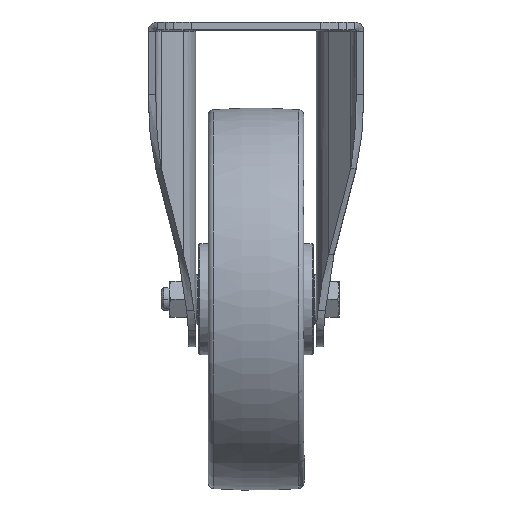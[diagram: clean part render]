
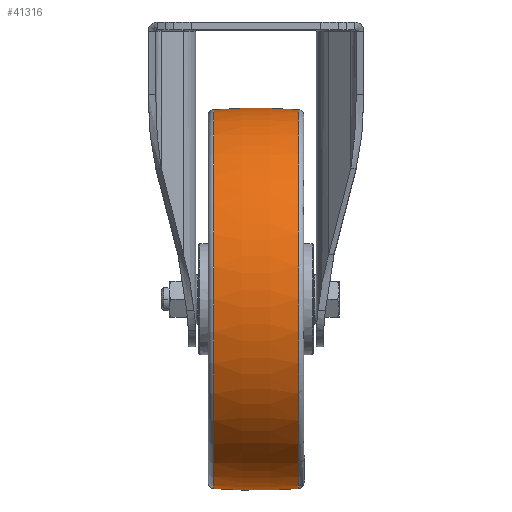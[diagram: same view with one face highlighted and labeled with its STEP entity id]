
A CAD part, top view. The second image highlights one B-rep face of the part: STEP entity #41316.
In plain terms, the highlighted toroidal (fillet/blend) face has major radius 200 mm and minor radius 300 mm.
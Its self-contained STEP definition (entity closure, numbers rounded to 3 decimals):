
#294 = ORIENTED_EDGE ( 'NONE', *, *, #62088, .T. ) ;
#674 = CARTESIAN_POINT ( 'NONE',  ( 22.222, 0., 0. ) ) ;
#892 = CARTESIAN_POINT ( 'NONE',  ( 0., 200., 0. ) ) ;
#1522 = FACE_OUTER_BOUND ( 'NONE', #30982, .T. ) ;
#3552 = CARTESIAN_POINT ( 'NONE',  ( 0., 0., 0. ) ) ;
#8728 = CARTESIAN_POINT ( 'NONE',  ( 22.222, 99.176, 0. ) ) ;
#9313 = CARTESIAN_POINT ( 'NONE',  ( -22.222, 99.176, 0. ) ) ;
#12083 = AXIS2_PLACEMENT_3D ( 'NONE', #3552, #83370, #91359 ) ;
#19094 = VERTEX_POINT ( 'NONE', #8728 ) ;
#25869 = CARTESIAN_POINT ( 'NONE',  ( -22.222, 0., 0. ) ) ;
#30982 = EDGE_LOOP ( 'NONE', ( #60922, #39087, #31711, #294 ) ) ;
#31711 = ORIENTED_EDGE ( 'NONE', *, *, #32840, .F. ) ;
#32135 = DIRECTION ( 'NONE',  ( 1., 0., 0. ) ) ;
#32666 = DIRECTION ( 'NONE',  ( 0.074, -0.997, 0. ) ) ;
#32840 = EDGE_CURVE ( 'NONE', #97087, #19094, #66768, .T. ) ;
#33151 = CARTESIAN_POINT ( 'NONE',  ( -22.222, -99.176, 0. ) ) ;
#39087 = ORIENTED_EDGE ( 'NONE', *, *, #65437, .F. ) ;
#41316 = ADVANCED_FACE ( 'NONE', ( #1522 ), #79367, .T. ) ;
#42508 = CIRCLE ( 'NONE', #93304, 300. ) ;
#42808 = DIRECTION ( 'NONE',  ( 1., 0., 0. ) ) ;
#45872 = DIRECTION ( 'NONE',  ( 0., 0., 1. ) ) ;
#45972 = VERTEX_POINT ( 'NONE', #9313 ) ;
#51656 = CIRCLE ( 'NONE', #60157, 99.176 ) ;
#56176 = DIRECTION ( 'NONE',  ( 0., 0., -1. ) ) ;
#56246 = CARTESIAN_POINT ( 'NONE',  ( 22.222, -99.176, 0. ) ) ;
#59282 = VERTEX_POINT ( 'NONE', #33151 ) ;
#60157 = AXIS2_PLACEMENT_3D ( 'NONE', #25869, #42808, #81164 ) ;
#60922 = ORIENTED_EDGE ( 'NONE', *, *, #79155, .T. ) ;
#62088 = EDGE_CURVE ( 'NONE', #97087, #59282, #42508, .T. ) ;
#62741 = DIRECTION ( 'NONE',  ( 0.074, 0.997, 0. ) ) ;
#65437 = EDGE_CURVE ( 'NONE', #19094, #45972, #89303, .T. ) ;
#66768 = CIRCLE ( 'NONE', #88682, 99.176 ) ;
#77285 = CARTESIAN_POINT ( 'NONE',  ( 0., -200., 0. ) ) ;
#77451 = AXIS2_PLACEMENT_3D ( 'NONE', #77285, #45872, #62741 ) ;
#79155 = EDGE_CURVE ( 'NONE', #59282, #45972, #51656, .T. ) ;
#79367 = TOROIDAL_SURFACE ( 'NONE', #12083, -200., 300. ) ;
#81164 = DIRECTION ( 'NONE',  ( 0., -1., 0. ) ) ;
#83370 = DIRECTION ( 'NONE',  ( 1., 0., 0. ) ) ;
#87467 = DIRECTION ( 'NONE',  ( 0., -1., 0. ) ) ;
#88682 = AXIS2_PLACEMENT_3D ( 'NONE', #674, #32135, #87467 ) ;
#89303 = CIRCLE ( 'NONE', #77451, 300. ) ;
#91359 = DIRECTION ( 'NONE',  ( 0., 1., 0. ) ) ;
#93304 = AXIS2_PLACEMENT_3D ( 'NONE', #892, #56176, #32666 ) ;
#97087 = VERTEX_POINT ( 'NONE', #56246 ) ;
